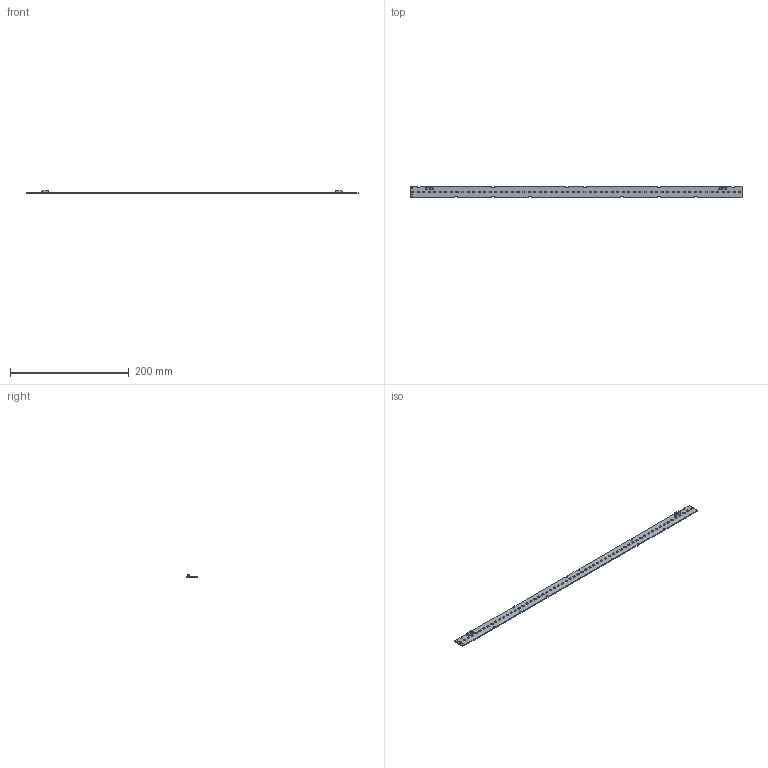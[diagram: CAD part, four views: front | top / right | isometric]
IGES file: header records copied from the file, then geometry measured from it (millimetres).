
Start section: SolidWorks IGES file using analytic representation for surfaces
Global section: file name: C:\Users\vuorinen_kari\Desktop\prj\LED_kosketussuojaus\led_module LS20-560.IGS; native system: SolidWorks 2014; preprocessor: SolidWorks 2014; author: vuorinen_kari; date: 180704.125205; units: millimetre
Bounding box: 559.8 x 20 x 5.95 mm (x, y, z)
Surface area: 26329.7 mm2 (no closed solid volume)
Topology: 0 solids, 0 shells, 3562 faces, 25122 edges, 25122 vertices
Faces by surface type: bspline 2412, revolution 1150
